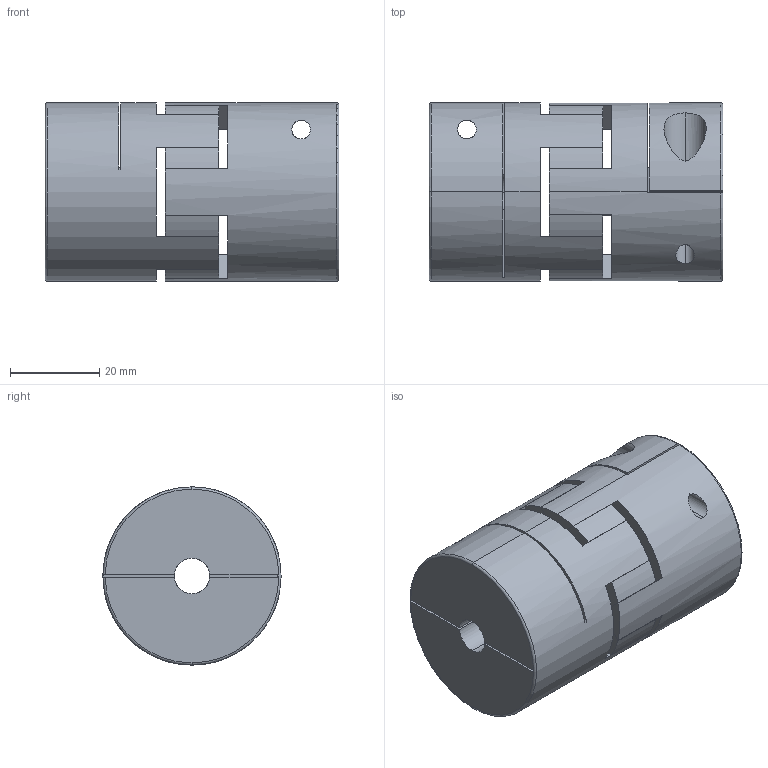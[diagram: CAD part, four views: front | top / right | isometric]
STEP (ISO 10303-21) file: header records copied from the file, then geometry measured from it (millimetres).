
FILE_DESCRIPTION (( 'STEP AP203' ), '1' );
FILE_NAME ('SQR-40C.STEP', '2009-10-01T16:07:16', ( 'USER' ), ( 'HOME' ), 'SwSTEP 2.0', 'SolidWorks 2007', '' );
FILE_SCHEMA (( 'CONFIG_CONTROL_DESIGN' ));
Length unit declared in the file: millimetre
Products named in the file (1): SQR-40C
Bounding box: 66 x 40 x 40 mm (x, y, z)
Volume: 72205.7 mm3; surface area: 24394.7 mm2
Topology: 3 solids, 3 shells, 100 faces, 280 edges, 186 vertices
Faces by surface type: plane 62, cylinder 34, torus 4
Entity records: 3591 total; most frequent: CARTESIAN_POINT 841, DIRECTION 562, ORIENTED_EDGE 560, EDGE_CURVE 280, AXIS2_PLACEMENT_3D 193, VERTEX_POINT 186, VECTOR 176, LINE 176
